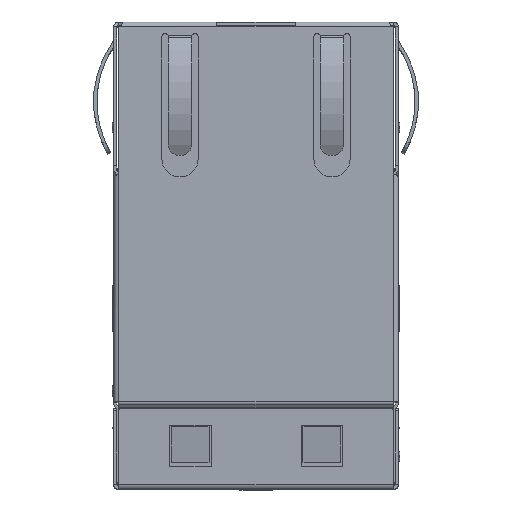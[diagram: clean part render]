
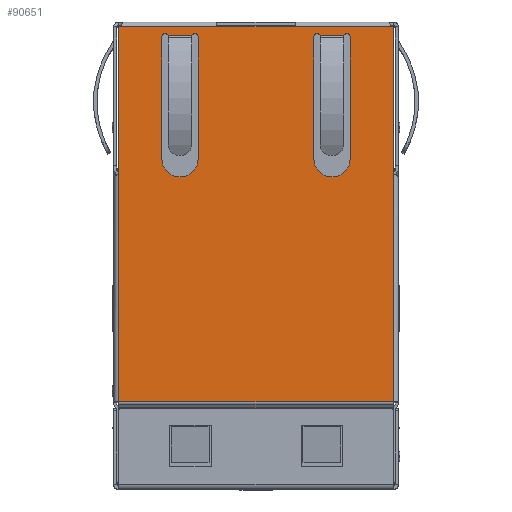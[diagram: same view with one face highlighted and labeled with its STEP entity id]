
A CAD part, top view. The second image highlights one B-rep face of the part: STEP entity #90651.
In plain terms, the highlighted planar face has unit normal (0, 0, 1).
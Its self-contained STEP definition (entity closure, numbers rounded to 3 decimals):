
#3806=DIRECTION('',(-1.,0.,0.));
#3807=VECTOR('',#3806,5.955);
#3808=CARTESIAN_POINT('',(-37.305,27.825,0.25));
#3809=LINE('',#3808,#3807);
#3810=CARTESIAN_POINT('',(-43.26,27.825,0.25));
#32164=DIRECTION('',(0.,-1.,0.));
#32165=VECTOR('',#32164,13.84);
#32166=CARTESIAN_POINT('',(-43.26,18.925,0.25));
#32167=LINE('',#32166,#32165);
#32168=DIRECTION('',(0.,-1.,0.));
#32169=VECTOR('',#32168,8.9);
#32170=CARTESIAN_POINT('',(-26.59,27.825,0.25));
#32171=LINE('',#32170,#32169);
#32172=DIRECTION('',(0.,-1.,0.));
#32173=VECTOR('',#32172,13.84);
#32174=CARTESIAN_POINT('',(-26.59,18.925,
0.25));
#32175=LINE('',#32174,#32173);
#32176=DIRECTION('',(1.,0.,0.));
#32177=VECTOR('',#32176,4.76);
#32178=CARTESIAN_POINT('',(-37.305,27.825,0.25));
#32179=LINE('',#32178,#32177);
#32180=CARTESIAN_POINT('',(-31.215,27.225,0.25));
#32181=DIRECTION('',(0.,0.,1.));
#32182=DIRECTION('',(0.945,0.328,0.));
#32183=AXIS2_PLACEMENT_3D('',#32180,#32181,#32182);
#32185=CARTESIAN_POINT('',(-30.315,19.825,0.25));
#32186=DIRECTION('',(0.,0.,1.));
#32187=DIRECTION('',(-1.,0.001,0.));
#32188=AXIS2_PLACEMENT_3D('',#32185,#32186,#32187);
#32190=CARTESIAN_POINT('',(-29.415,27.225,0.25));
#32191=DIRECTION('',(0.,0.,1.));
#32192=DIRECTION('',(1.,0.,0.));
#32193=AXIS2_PLACEMENT_3D('',#32190,#32191,#32192);
#32195=CARTESIAN_POINT('',(-40.435,27.225,0.25));
#32196=DIRECTION('',(0.,0.,1.));
#32197=DIRECTION('',(0.945,0.328,0.));
#32198=AXIS2_PLACEMENT_3D('',#32195,#32196,#32197);
#32200=CARTESIAN_POINT('',(-39.535,19.825,0.25));
#32201=DIRECTION('',(0.,0.,1.));
#32202=DIRECTION('',(-1.,0.,0.));
#32203=AXIS2_PLACEMENT_3D('',#32200,#32201,#32202);
#32205=CARTESIAN_POINT('',(-38.635,27.225,0.25));
#32206=DIRECTION('',(0.,0.,1.));
#32207=DIRECTION('',(1.,0.,0.));
#32208=AXIS2_PLACEMENT_3D('',#32205,#32206,#32207);
#32214=DIRECTION('',(1.,0.,0.));
#32215=VECTOR('',#32214,16.67);
#32216=CARTESIAN_POINT('',(-43.26,5.085,0.25));
#32217=LINE('',#32216,#32215);
#32218=DIRECTION('',(0.,-1.,0.));
#32219=VECTOR('',#32218,8.9);
#32220=CARTESIAN_POINT('',(-43.26,27.825,0.25));
#32221=LINE('',#32220,#32219);
#32552=DIRECTION('',(-1.,0.,0.));
#32553=VECTOR('',#32552,5.955);
#32554=CARTESIAN_POINT('',(-26.59,27.825,0.25));
#32555=LINE('',#32554,#32553);
#32556=DIRECTION('',(1.,0.,0.));
#32557=VECTOR('',#32556,1.422);
#32558=CARTESIAN_POINT('',(-31.026,27.291,
0.25));
#32559=LINE('',#32558,#32557);
#32669=DIRECTION('',(0.,1.,0.));
#32670=VECTOR('',#32669,7.4);
#32671=CARTESIAN_POINT('',(-31.415,19.825,0.25));
#32672=LINE('',#32671,#32670);
#32685=DIRECTION('',(0.,-1.,0.));
#32686=VECTOR('',#32685,7.4);
#32687=CARTESIAN_POINT('',(-29.215,27.225,0.25));
#32688=LINE('',#32687,#32686);
#32698=DIRECTION('',(1.,0.,0.));
#32699=VECTOR('',#32698,1.422);
#32700=CARTESIAN_POINT('',(-40.246,27.291,
0.25));
#32701=LINE('',#32700,#32699);
#32811=DIRECTION('',(0.,1.,0.));
#32812=VECTOR('',#32811,7.4);
#32813=CARTESIAN_POINT('',(-40.635,19.825,0.25));
#32814=LINE('',#32813,#32812);
#32827=DIRECTION('',(0.,-1.,0.));
#32828=VECTOR('',#32827,7.4);
#32829=CARTESIAN_POINT('',(-38.435,27.225,0.25));
#32830=LINE('',#32829,#32828);
#45134=CARTESIAN_POINT('',(-43.26,5.085,0.25));
#45135=VERTEX_POINT('',#45134);
#45180=CARTESIAN_POINT('',(-26.59,5.085,0.25));
#45181=VERTEX_POINT('',#45180);
#45995=VERTEX_POINT('',#3810);
#45998=CARTESIAN_POINT('',(-37.305,27.825,0.25));
#45999=VERTEX_POINT('',#45998);
#46350=CARTESIAN_POINT('',(-26.59,27.825,0.25));
#46351=VERTEX_POINT('',#46350);
#46352=CARTESIAN_POINT('',(-26.59,18.925,
0.25));
#46353=VERTEX_POINT('',#46352);
#46669=CARTESIAN_POINT('',(-43.26,18.925,0.25));
#46670=VERTEX_POINT('',#46669);
#46689=CARTESIAN_POINT('',(-32.545,27.825,0.25));
#46690=VERTEX_POINT('',#46689);
#46691=CARTESIAN_POINT('',(-31.026,27.291,
0.25));
#46692=CARTESIAN_POINT('',(-29.604,27.291,
0.25));
#46693=VERTEX_POINT('',#46691);
#46694=VERTEX_POINT('',#46692);
#46695=CARTESIAN_POINT('',(-31.415,27.225,0.25));
#46696=VERTEX_POINT('',#46695);
#46697=CARTESIAN_POINT('',(-31.415,19.825,0.25));
#46698=VERTEX_POINT('',#46697);
#46699=CARTESIAN_POINT('',(-29.215,19.825,0.25));
#46700=VERTEX_POINT('',#46699);
#46701=CARTESIAN_POINT('',(-29.215,27.225,0.25));
#46702=VERTEX_POINT('',#46701);
#46703=CARTESIAN_POINT('',(-40.246,27.291,
0.25));
#46704=CARTESIAN_POINT('',(-38.824,27.291,
0.25));
#46705=VERTEX_POINT('',#46703);
#46706=VERTEX_POINT('',#46704);
#46707=CARTESIAN_POINT('',(-40.635,27.225,0.25));
#46708=VERTEX_POINT('',#46707);
#46709=CARTESIAN_POINT('',(-40.635,19.825,0.25));
#46710=VERTEX_POINT('',#46709);
#46711=CARTESIAN_POINT('',(-38.435,19.825,0.25));
#46712=VERTEX_POINT('',#46711);
#46713=CARTESIAN_POINT('',(-38.435,27.225,0.25));
#46714=VERTEX_POINT('',#46713);
#90604=CARTESIAN_POINT('',(-34.925,16.455,0.25));
#90605=DIRECTION('',(0.,0.,1.));
#90606=DIRECTION('',(0.,1.,0.));
#90607=AXIS2_PLACEMENT_3D('',#90604,#90605,#90606);
#90608=PLANE('',#90607);
#90609=ORIENTED_EDGE('',*,*,#53598,.T.);
#90610=ORIENTED_EDGE('',*,*,#54529,.T.);
#90612=ORIENTED_EDGE('',*,*,#90611,.F.);
#90613=ORIENTED_EDGE('',*,*,#90598,.F.);
#90615=ORIENTED_EDGE('',*,*,#90614,.F.);
#90616=ORIENTED_EDGE('',*,*,#52058,.F.);
#90618=ORIENTED_EDGE('',*,*,#90617,.T.);
#90620=ORIENTED_EDGE('',*,*,#90619,.F.);
#90621=EDGE_LOOP('',(#90609,#90610,#90612,#90613,#90615,#90616,#90618,#90620));
#90622=FACE_OUTER_BOUND('',#90621,.F.);
#90624=ORIENTED_EDGE('',*,*,#90623,.F.);
#90626=ORIENTED_EDGE('',*,*,#90625,.T.);
#90628=ORIENTED_EDGE('',*,*,#90627,.F.);
#90630=ORIENTED_EDGE('',*,*,#90629,.T.);
#90632=ORIENTED_EDGE('',*,*,#90631,.F.);
#90634=ORIENTED_EDGE('',*,*,#90633,.T.);
#90635=EDGE_LOOP('',(#90624,#90626,#90628,#90630,#90632,#90634));
#90636=FACE_BOUND('',#90635,.F.);
#90638=ORIENTED_EDGE('',*,*,#90637,.F.);
#90640=ORIENTED_EDGE('',*,*,#90639,.T.);
#90642=ORIENTED_EDGE('',*,*,#90641,.F.);
#90644=ORIENTED_EDGE('',*,*,#90643,.T.);
#90646=ORIENTED_EDGE('',*,*,#90645,.F.);
#90648=ORIENTED_EDGE('',*,*,#90647,.T.);
#90649=EDGE_LOOP('',(#90638,#90640,#90642,#90644,#90646,#90648));
#90650=FACE_BOUND('',#90649,.F.);
#90651=ADVANCED_FACE('',(#90622,#90636,#90650),#90608,.T.);
#32184=CIRCLE('',#32183,0.2);
#32189=CIRCLE('',#32188,1.1);
#32194=CIRCLE('',#32193,0.2);
#32199=CIRCLE('',#32198,0.2);
#32204=CIRCLE('',#32203,1.1);
#32209=CIRCLE('',#32208,0.2);
#52058=EDGE_CURVE('',#45999,#45995,#3809,.T.);
#53598=EDGE_CURVE('',#46351,#46353,#32171,.T.);
#54529=EDGE_CURVE('',#46353,#45181,#32175,.T.);
#90598=EDGE_CURVE('',#46670,#45135,#32167,.T.);
#90611=EDGE_CURVE('',#45135,#45181,#32217,.T.);
#90614=EDGE_CURVE('',#45995,#46670,#32221,.T.);
#90617=EDGE_CURVE('',#45999,#46690,#32179,.T.);
#90619=EDGE_CURVE('',#46351,#46690,#32555,.T.);
#90623=EDGE_CURVE('',#46693,#46694,#32559,.T.);
#90625=EDGE_CURVE('',#46693,#46696,#32184,.T.);
#90627=EDGE_CURVE('',#46698,#46696,#32672,.T.);
#90629=EDGE_CURVE('',#46698,#46700,#32189,.T.);
#90631=EDGE_CURVE('',#46702,#46700,#32688,.T.);
#90633=EDGE_CURVE('',#46702,#46694,#32194,.T.);
#90637=EDGE_CURVE('',#46705,#46706,#32701,.T.);
#90639=EDGE_CURVE('',#46705,#46708,#32199,.T.);
#90641=EDGE_CURVE('',#46710,#46708,#32814,.T.);
#90643=EDGE_CURVE('',#46710,#46712,#32204,.T.);
#90645=EDGE_CURVE('',#46714,#46712,#32830,.T.);
#90647=EDGE_CURVE('',#46714,#46706,#32209,.T.);
